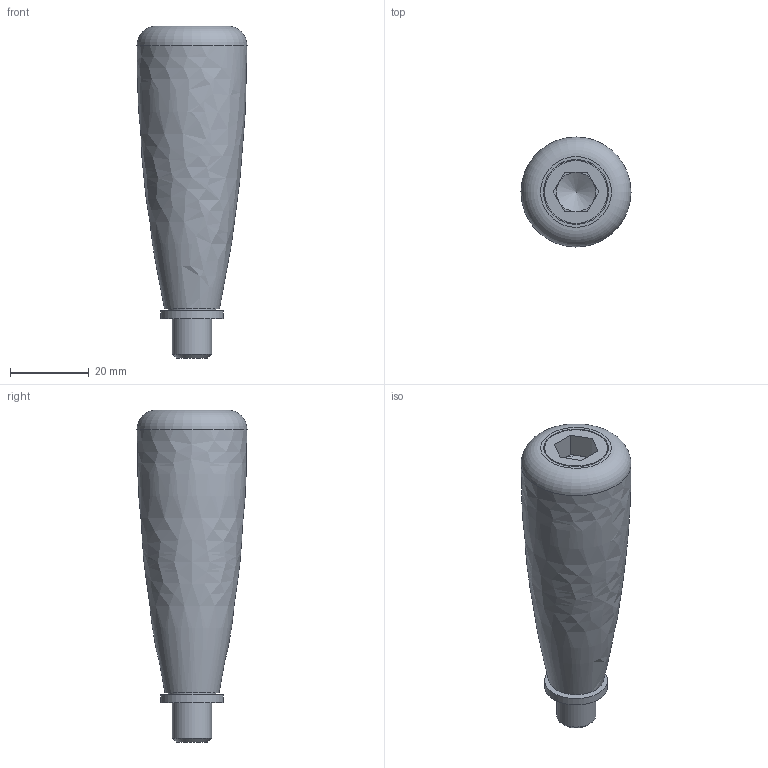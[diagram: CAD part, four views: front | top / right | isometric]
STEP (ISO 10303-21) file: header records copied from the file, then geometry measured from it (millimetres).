
FILE_DESCRIPTION( ('This file contains a STEP AP42 implementation' ,'as created by ZW3D STEP Interface translator.') ,'2;1' );
FILE_NAME( 'Raczka obrotowa B28.stp' ,'26 820.115211', (''), ('ZWCAD Software Co.'), 'Version 1.0', 'ZW3D to STEP translator', '' );
FILE_SCHEMA(('AP242_MANAGED_MODEL_BASED_3D_ENGINEERING_MIM_LF { 1 0 10303 442 1 1 4 }'));
Length unit declared in the file: millimetre
Products named in the file (1): 0
Bounding box: 28 x 28 x 84.5 mm (x, y, z)
Volume: 32138.8 mm3; surface area: 12896.3 mm2
Topology: 3 solids, 3 shells, 32 faces, 61 edges, 38 vertices
Faces by surface type: plane 21, cylinder 7, cone 2, bspline 1, torus 1
Full cylindrical faces by diameter (mm): 10 x1, 10.5 x1, 12 x1, 12.5 x1, 16 x2, 16.5 x1
Entity records: 888 total; most frequent: CARTESIAN_POINT 157, DIRECTION 151, ORIENTED_EDGE 120, EDGE_CURVE 60, AXIS2_PLACEMENT_3D 59, EDGE_LOOP 40, VERTEX_POINT 38, VECTOR 33
